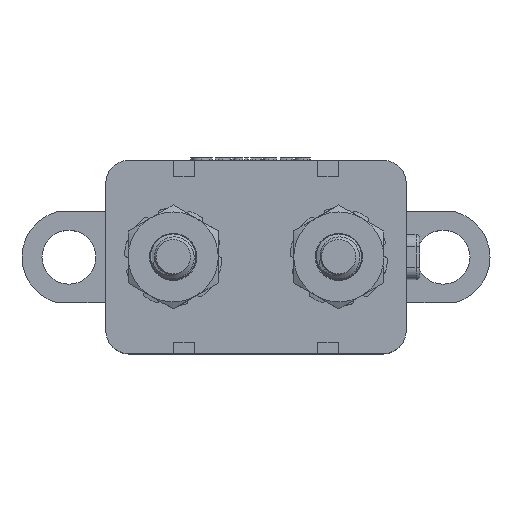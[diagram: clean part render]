
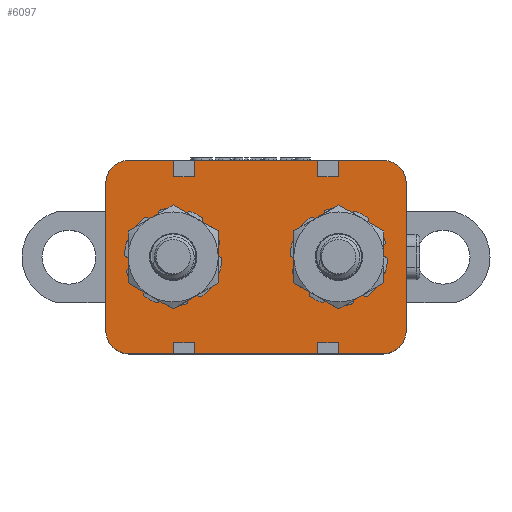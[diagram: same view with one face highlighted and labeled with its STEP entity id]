
A CAD part, top view. The second image highlights one B-rep face of the part: STEP entity #6097.
In plain terms, the highlighted planar face has unit normal (0, 0, 1).
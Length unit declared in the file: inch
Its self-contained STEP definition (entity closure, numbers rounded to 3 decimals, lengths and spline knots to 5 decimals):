
#795=PLANE('',#6469);
#1008=FACE_OUTER_BOUND('',#1360,.T.);
#1360=EDGE_LOOP('',(#4976,#4977,#4978,#4979,#4980,#4981,#4982,#4983,#4984,
#4985,#4986,#4987,#4988,#4989,#4990,#4991,#4992,#4993,#4994,#4995,#4996,
#4997,#4998,#4999));
#1798=LINE('',#9777,#2226);
#1800=LINE('',#9783,#2228);
#1803=LINE('',#9788,#2231);
#1808=LINE('',#9798,#2236);
#1810=LINE('',#9804,#2238);
#1813=LINE('',#9809,#2241);
#1815=LINE('',#9814,#2243);
#1819=LINE('',#9822,#2247);
#1822=LINE('',#9828,#2250);
#1827=LINE('',#9837,#2255);
#1829=LINE('',#9840,#2257);
#1830=LINE('',#9843,#2258);
#1833=LINE('',#9849,#2261);
#1836=LINE('',#9857,#2264);
#1837=LINE('',#9861,#2265);
#1838=LINE('',#9863,#2266);
#1839=LINE('',#9865,#2267);
#1840=LINE('',#9866,#2268);
#1841=LINE('',#9868,#2269);
#1842=LINE('',#9872,#2270);
#2226=VECTOR('',#7296,0.3937);
#2228=VECTOR('',#7300,0.3937);
#2231=VECTOR('',#7305,0.3937);
#2236=VECTOR('',#7312,0.3937);
#2238=VECTOR('',#7316,0.3937);
#2241=VECTOR('',#7321,0.3937);
#2243=VECTOR('',#7325,0.3937);
#2247=VECTOR('',#7331,0.3937);
#2250=VECTOR('',#7336,0.3937);
#2255=VECTOR('',#7343,0.3937);
#2257=VECTOR('',#7347,0.3937);
#2258=VECTOR('',#7350,0.3937);
#2261=VECTOR('',#7355,0.3937);
#2264=VECTOR('',#7362,0.3937);
#2265=VECTOR('',#7365,0.3937);
#2266=VECTOR('',#7366,0.3937);
#2267=VECTOR('',#7367,0.3937);
#2268=VECTOR('',#7368,0.3937);
#2269=VECTOR('',#7369,0.3937);
#2270=VECTOR('',#7372,0.3937);
#2405=CIRCLE('',#6470,0.09843);
#2406=CIRCLE('',#6471,0.09843);
#2407=CIRCLE('',#6472,0.09843);
#2408=CIRCLE('',#6473,0.09843);
#2793=VERTEX_POINT('',#9771);
#2795=VERTEX_POINT('',#9775);
#2796=VERTEX_POINT('',#9779);
#2798=VERTEX_POINT('',#9782);
#2801=VERTEX_POINT('',#9792);
#2803=VERTEX_POINT('',#9796);
#2804=VERTEX_POINT('',#9800);
#2806=VERTEX_POINT('',#9803);
#2808=VERTEX_POINT('',#9812);
#2809=VERTEX_POINT('',#9813);
#2812=VERTEX_POINT('',#9821);
#2814=VERTEX_POINT('',#9827);
#2817=VERTEX_POINT('',#9835);
#2818=VERTEX_POINT('',#9842);
#2820=VERTEX_POINT('',#9848);
#2822=VERTEX_POINT('',#9854);
#2823=VERTEX_POINT('',#9856);
#2824=VERTEX_POINT('',#9858);
#2825=VERTEX_POINT('',#9860);
#2826=VERTEX_POINT('',#9862);
#2827=VERTEX_POINT('',#9864);
#2828=VERTEX_POINT('',#9867);
#2829=VERTEX_POINT('',#9869);
#2830=VERTEX_POINT('',#9871);
#3555=EDGE_CURVE('',#2793,#2795,#1798,.T.);
#3557=EDGE_CURVE('',#2798,#2796,#1800,.T.);
#3560=EDGE_CURVE('',#2795,#2798,#1803,.T.);
#3565=EDGE_CURVE('',#2801,#2803,#1808,.T.);
#3567=EDGE_CURVE('',#2806,#2804,#1810,.T.);
#3570=EDGE_CURVE('',#2803,#2806,#1813,.T.);
#3572=EDGE_CURVE('',#2808,#2809,#1815,.T.);
#3576=EDGE_CURVE('',#2812,#2808,#1819,.T.);
#3579=EDGE_CURVE('',#2809,#2814,#1822,.T.);
#3584=EDGE_CURVE('',#2804,#2817,#1827,.T.);
#3586=EDGE_CURVE('',#2796,#2801,#1829,.T.);
#3587=EDGE_CURVE('',#2818,#2793,#1830,.T.);
#3590=EDGE_CURVE('',#2820,#2812,#1833,.T.);
#3593=EDGE_CURVE('',#2822,#2817,#2405,.T.);
#3594=EDGE_CURVE('',#2822,#2823,#1836,.T.);
#3595=EDGE_CURVE('',#2824,#2823,#2406,.T.);
#3596=EDGE_CURVE('',#2824,#2825,#1837,.T.);
#3597=EDGE_CURVE('',#2825,#2826,#1838,.T.);
#3598=EDGE_CURVE('',#2826,#2827,#1839,.T.);
#3599=EDGE_CURVE('',#2827,#2820,#1840,.T.);
#3600=EDGE_CURVE('',#2814,#2828,#1841,.T.);
#3601=EDGE_CURVE('',#2829,#2828,#2407,.T.);
#3602=EDGE_CURVE('',#2829,#2830,#1842,.T.);
#3603=EDGE_CURVE('',#2818,#2830,#2408,.T.);
#4976=ORIENTED_EDGE('',*,*,#3555,.T.);
#4977=ORIENTED_EDGE('',*,*,#3560,.T.);
#4978=ORIENTED_EDGE('',*,*,#3557,.T.);
#4979=ORIENTED_EDGE('',*,*,#3586,.T.);
#4980=ORIENTED_EDGE('',*,*,#3565,.T.);
#4981=ORIENTED_EDGE('',*,*,#3570,.T.);
#4982=ORIENTED_EDGE('',*,*,#3567,.T.);
#4983=ORIENTED_EDGE('',*,*,#3584,.T.);
#4984=ORIENTED_EDGE('',*,*,#3593,.F.);
#4985=ORIENTED_EDGE('',*,*,#3594,.T.);
#4986=ORIENTED_EDGE('',*,*,#3595,.F.);
#4987=ORIENTED_EDGE('',*,*,#3596,.T.);
#4988=ORIENTED_EDGE('',*,*,#3597,.T.);
#4989=ORIENTED_EDGE('',*,*,#3598,.T.);
#4990=ORIENTED_EDGE('',*,*,#3599,.T.);
#4991=ORIENTED_EDGE('',*,*,#3590,.T.);
#4992=ORIENTED_EDGE('',*,*,#3576,.T.);
#4993=ORIENTED_EDGE('',*,*,#3572,.T.);
#4994=ORIENTED_EDGE('',*,*,#3579,.T.);
#4995=ORIENTED_EDGE('',*,*,#3600,.T.);
#4996=ORIENTED_EDGE('',*,*,#3601,.F.);
#4997=ORIENTED_EDGE('',*,*,#3602,.T.);
#4998=ORIENTED_EDGE('',*,*,#3603,.F.);
#4999=ORIENTED_EDGE('',*,*,#3587,.T.);
#6097=ADVANCED_FACE('',(#1008),#795,.T.);
#6469=AXIS2_PLACEMENT_3D('',#9853,#7358,#7359);
#6470=AXIS2_PLACEMENT_3D('',#9855,#7360,#7361);
#6471=AXIS2_PLACEMENT_3D('',#9859,#7363,#7364);
#6472=AXIS2_PLACEMENT_3D('',#9870,#7370,#7371);
#6473=AXIS2_PLACEMENT_3D('',#9873,#7373,#7374);
#7296=DIRECTION('',(0.,1.,0.));
#7300=DIRECTION('',(0.,-1.,0.));
#7305=DIRECTION('',(1.,0.,0.));
#7312=DIRECTION('',(0.,1.,0.));
#7316=DIRECTION('',(0.,-1.,0.));
#7321=DIRECTION('',(1.,0.,0.));
#7325=DIRECTION('',(-1.,0.,0.));
#7331=DIRECTION('',(0.,-1.,0.));
#7336=DIRECTION('',(0.,1.,0.));
#7343=DIRECTION('',(1.,0.,0.));
#7347=DIRECTION('',(1.,0.,0.));
#7350=DIRECTION('',(1.,0.,0.));
#7355=DIRECTION('',(-1.,0.,0.));
#7358=DIRECTION('center_axis',(0.,0.,1.));
#7359=DIRECTION('ref_axis',(1.,0.,0.));
#7360=DIRECTION('center_axis',(0.,0.,-1.));
#7361=DIRECTION('ref_axis',(0.707,-0.707,0.));
#7362=DIRECTION('',(0.,1.,0.));
#7363=DIRECTION('center_axis',(0.,0.,-1.));
#7364=DIRECTION('ref_axis',(0.707,0.707,0.));
#7365=DIRECTION('',(-1.,0.,0.));
#7366=DIRECTION('',(0.,-1.,0.));
#7367=DIRECTION('',(-1.,0.,0.));
#7368=DIRECTION('',(0.,1.,0.));
#7369=DIRECTION('',(-1.,0.,0.));
#7370=DIRECTION('center_axis',(0.,0.,-1.));
#7371=DIRECTION('ref_axis',(-0.707,0.707,0.));
#7372=DIRECTION('',(0.,-1.,0.));
#7373=DIRECTION('center_axis',(0.,0.,-1.));
#7374=DIRECTION('ref_axis',(-0.707,-0.707,0.));
#9771=CARTESIAN_POINT('',(0.28348,0.,0.61));
#9775=CARTESIAN_POINT('',(0.28348,0.04748,0.61));
#9777=CARTESIAN_POINT('',(0.28348,0.19061,0.61));
#9779=CARTESIAN_POINT('',(0.36848,0.,0.61));
#9782=CARTESIAN_POINT('',(0.36848,0.04748,0.61));
#9783=CARTESIAN_POINT('',(0.36848,0.22561,0.61));
#9788=CARTESIAN_POINT('',(0.45473,0.04748,0.61));
#9792=CARTESIAN_POINT('',(0.88348,0.,0.61));
#9796=CARTESIAN_POINT('',(0.88348,0.04748,0.61));
#9798=CARTESIAN_POINT('',(0.88348,0.19061,0.61));
#9800=CARTESIAN_POINT('',(0.96848,0.,0.61));
#9803=CARTESIAN_POINT('',(0.96848,0.04748,0.61));
#9804=CARTESIAN_POINT('',(0.96848,0.22561,0.61));
#9809=CARTESIAN_POINT('',(0.75473,0.04748,0.61));
#9812=CARTESIAN_POINT('',(0.36848,0.73748,0.61));
#9813=CARTESIAN_POINT('',(0.28348,0.73748,0.61));
#9814=CARTESIAN_POINT('',(0.49723,0.73748,0.61));
#9821=CARTESIAN_POINT('',(0.36848,0.80748,0.61));
#9822=CARTESIAN_POINT('',(0.36848,0.60561,0.61));
#9827=CARTESIAN_POINT('',(0.28348,0.80748,0.61));
#9828=CARTESIAN_POINT('',(0.28348,0.57061,0.61));
#9835=CARTESIAN_POINT('',(1.15354,0.,0.61));
#9837=CARTESIAN_POINT('',(1.25197,0.,0.61));
#9840=CARTESIAN_POINT('',(1.25197,0.,0.61));
#9842=CARTESIAN_POINT('',(0.09843,0.,0.61));
#9843=CARTESIAN_POINT('',(1.25197,0.,0.61));
#9848=CARTESIAN_POINT('',(0.88348,0.80748,0.61));
#9849=CARTESIAN_POINT('',(0.,0.80748,0.61));
#9853=CARTESIAN_POINT('Origin',(0.62598,0.40374,0.61));
#9854=CARTESIAN_POINT('',(1.25197,0.09843,0.61));
#9855=CARTESIAN_POINT('Origin',(1.15354,0.09843,0.61));
#9856=CARTESIAN_POINT('',(1.25197,0.70906,0.61));
#9857=CARTESIAN_POINT('',(1.25197,0.80748,0.61));
#9858=CARTESIAN_POINT('',(1.15354,0.80748,0.61));
#9859=CARTESIAN_POINT('Origin',(1.15354,0.70906,0.61));
#9860=CARTESIAN_POINT('',(0.96848,0.80748,0.61));
#9861=CARTESIAN_POINT('',(0.,0.80748,0.61));
#9862=CARTESIAN_POINT('',(0.96848,0.73748,0.61));
#9863=CARTESIAN_POINT('',(0.96848,0.60561,0.61));
#9864=CARTESIAN_POINT('',(0.88348,0.73748,0.61));
#9865=CARTESIAN_POINT('',(0.79723,0.73748,0.61));
#9866=CARTESIAN_POINT('',(0.88348,0.57061,0.61));
#9867=CARTESIAN_POINT('',(0.09843,0.80748,0.61));
#9868=CARTESIAN_POINT('',(0.,0.80748,0.61));
#9869=CARTESIAN_POINT('',(0.,0.70906,0.61));
#9870=CARTESIAN_POINT('Origin',(0.09843,0.70906,0.61));
#9871=CARTESIAN_POINT('',(0.,0.09843,0.61));
#9872=CARTESIAN_POINT('',(0.,0.,0.61));
#9873=CARTESIAN_POINT('Origin',(0.09843,0.09843,0.61));
